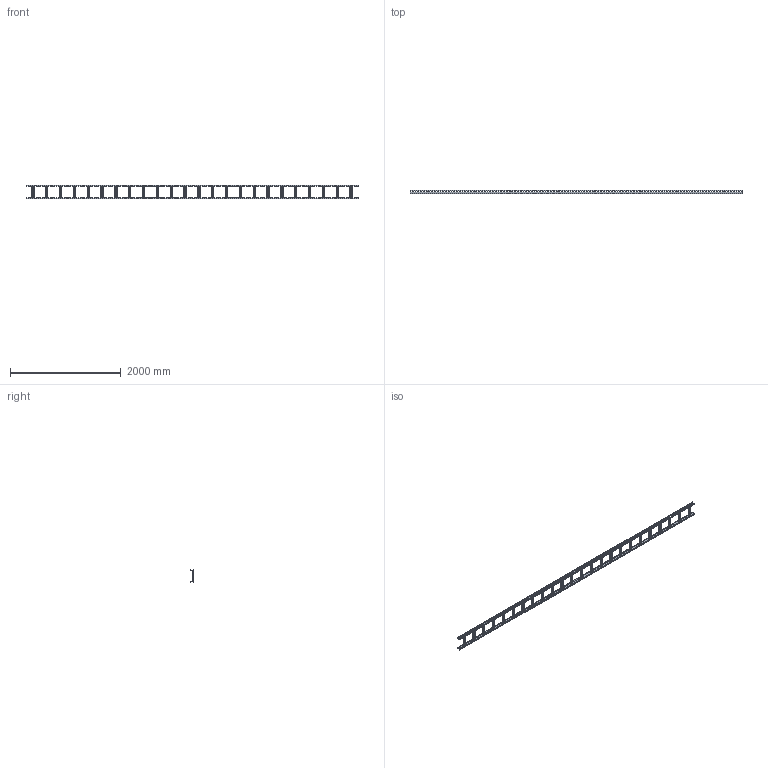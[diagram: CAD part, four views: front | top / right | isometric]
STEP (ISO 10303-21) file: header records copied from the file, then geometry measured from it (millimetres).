
FILE_DESCRIPTION(/* description */ (''),/* implementation_level */ '2;1');
FILE_NAME(/* name */ 'D:\Inventor projects\Biblioteka 3D\STP\WP 60-20.stp',/* time_stamp */ '2021-06-18T10:20:15+02:00',/* author */ ('psynowiec'),/* organization */ (''),/* preprocessor_version */ 'ST-DEVELOPER v16.13',/* originating_system */ 'Autodesk Inventor 2018',/* authorisation */ '');
FILE_SCHEMA (('AUTOMOTIVE_DESIGN { 1 0 10303 214 3 1 1 }'));
Products named in the file (1): WP 60-20
Bounding box: 6000 x 60 x 250.03 mm (x, y, z)
Volume: 2761167.6 mm3; surface area: 3786058.5 mm2
Topology: 26 solids, 26 shells, 3862 faces, 11222 edges, 7076 vertices
Faces by surface type: plane 2892, cylinder 970
Full cylindrical faces by diameter (mm): 7 x42
Entity records: 131334 total; most frequent: CARTESIAN_POINT 27927, ORIENTED_EDGE 22360, DIRECTION 20654, EDGE_CURVE 11180, LINE 7704, VECTOR 7704, VERTEX_POINT 7076, AXIS2_PLACEMENT_3D 6475
